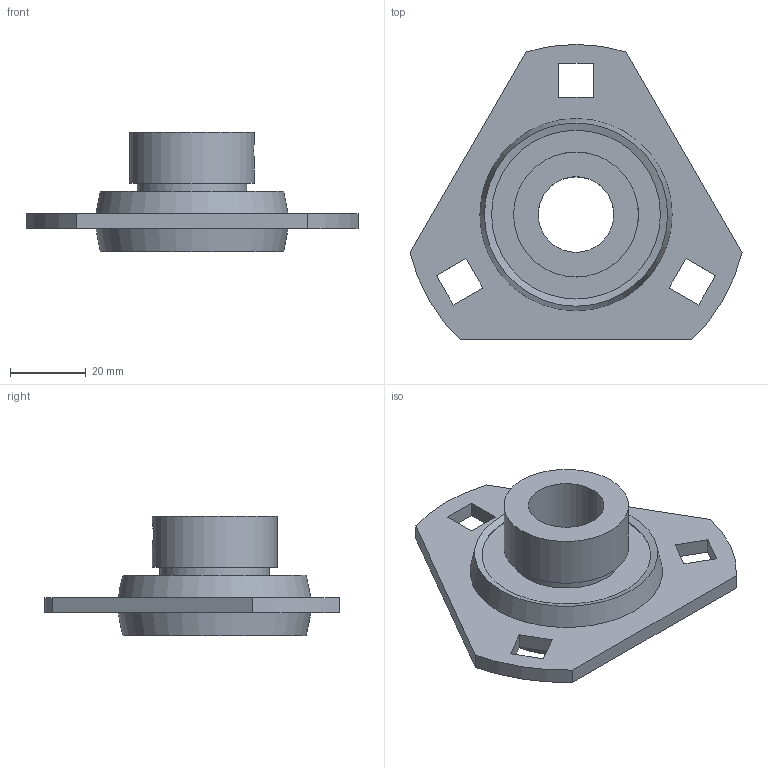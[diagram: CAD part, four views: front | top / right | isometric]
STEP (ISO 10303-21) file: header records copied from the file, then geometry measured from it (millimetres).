
FILE_DESCRIPTION((''),'2;1');
FILE_NAME('\\Ts-tgl068\j-cad-d-base\00.3DCADデータ作成フォルダ\02.フランジ形\KHPFT\KHPFT204A.stp','2014-04-24T10:28:48',('btec_1106_2'),(''),'Autodesk Inventor 2012','Autodesk Inventor 2012','');
FILE_SCHEMA(('AUTOMOTIVE_DESIGN { 1 0 10303 214 1 1 1 1 }'));
Length unit declared in the file: millimetre
Products named in the file (3): KHPFT200A; PFT4; KH204GA
Assembly tree (2 placements, depth 2):
  KHPFT200A
    PFT4
    KH204GA
Bounding box: 87.75 x 78 x 31.5 mm (x, y, z)
Volume: 42528.5 mm3; surface area: 20092 mm2
Topology: 2 solids, 2 shells, 48 faces, 120 edges, 80 vertices
Faces by surface type: plane 30, cylinder 9, sphere 4, cone 4, torus 1
Full cylindrical faces by diameter (mm): 4.8 x1, 6 x1, 20 x1, 26.74 x1, 29 x1, 33 x1
Entity records: 1433 total; most frequent: CARTESIAN_POINT 287, DIRECTION 224, ORIENTED_EDGE 190, EDGE_CURVE 95, AXIS2_PLACEMENT_3D 79, EDGE_LOOP 78, VERTEX_POINT 71, VECTOR 66
